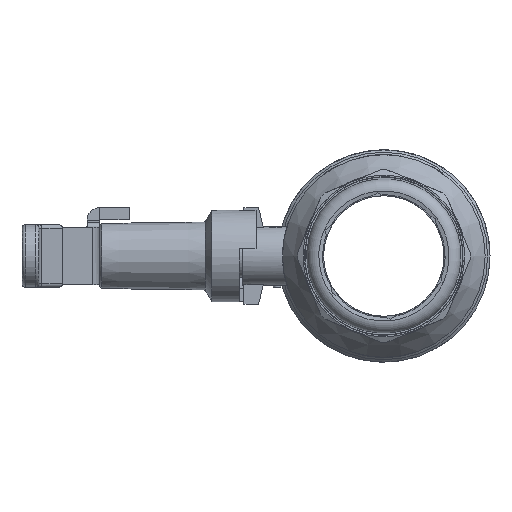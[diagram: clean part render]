
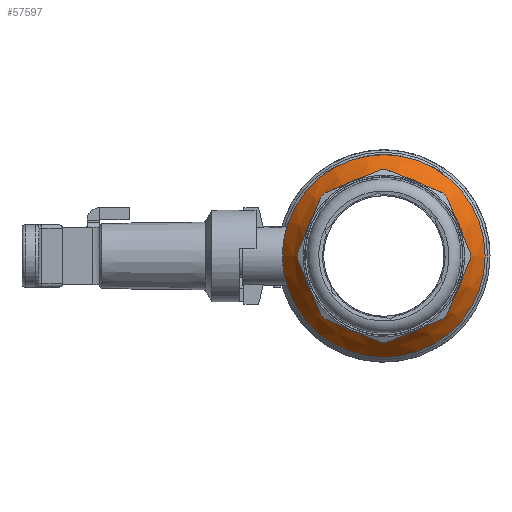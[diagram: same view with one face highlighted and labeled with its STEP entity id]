
A CAD part, left-side view. The second image highlights one B-rep face of the part: STEP entity #57597.
In plain terms, the highlighted conical face has half-angle 35 degrees and reference radius 41.1 mm.
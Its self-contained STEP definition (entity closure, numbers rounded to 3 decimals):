
#57566=CARTESIAN_POINT('',(-27.5,33.0,0.0));
#57567=VERTEX_POINT('',#57566);
#57568=CARTESIAN_POINT('',(-27.5,0.0,0.));
#57569=DIRECTION('',(1.0,0.0,0.0));
#57570=DIRECTION('',(0.0,1.0,0.0));
#57571=AXIS2_PLACEMENT_3D('',#57568,#57569,#57570);
#57572=CIRCLE('',#57571,33.0);
#57573=EDGE_CURVE('',#57567,#57567,#57572,.T.);
#57578=CARTESIAN_POINT('',(-15.932,0.0,0.));
#57579=DIRECTION('',(1.0,0.,0.));
#57580=DIRECTION('',(0.0,0.0,-1.0));
#57581=AXIS2_PLACEMENT_3D('',#57578,#57579,#57580);
#57582=CONICAL_SURFACE('',#57581,41.1,35.);
#57583=ORIENTED_EDGE('',*,*,#57573,.T.);
#57584=EDGE_LOOP('',(#57583));
#57585=FACE_OUTER_BOUND('',#57584,.T.);
#57586=CARTESIAN_POINT('',(-14.647,42.0,0.0));
#57587=VERTEX_POINT('',#57586);
#57588=CARTESIAN_POINT('',(-14.647,0.,0.));
#57589=DIRECTION('',(1.0,0.0,0.0));
#57590=DIRECTION('',(0.0,1.0,0.0));
#57591=AXIS2_PLACEMENT_3D('',#57588,#57589,#57590);
#57592=CIRCLE('',#57591,42.0);
#57593=EDGE_CURVE('',#57587,#57587,#57592,.T.);
#57594=ORIENTED_EDGE('',*,*,#57593,.F.);
#57595=EDGE_LOOP('',(#57594));
#57596=FACE_BOUND('',#57595,.T.);
#57597=ADVANCED_FACE('',(#57585,#57596),#57582,.T.);
